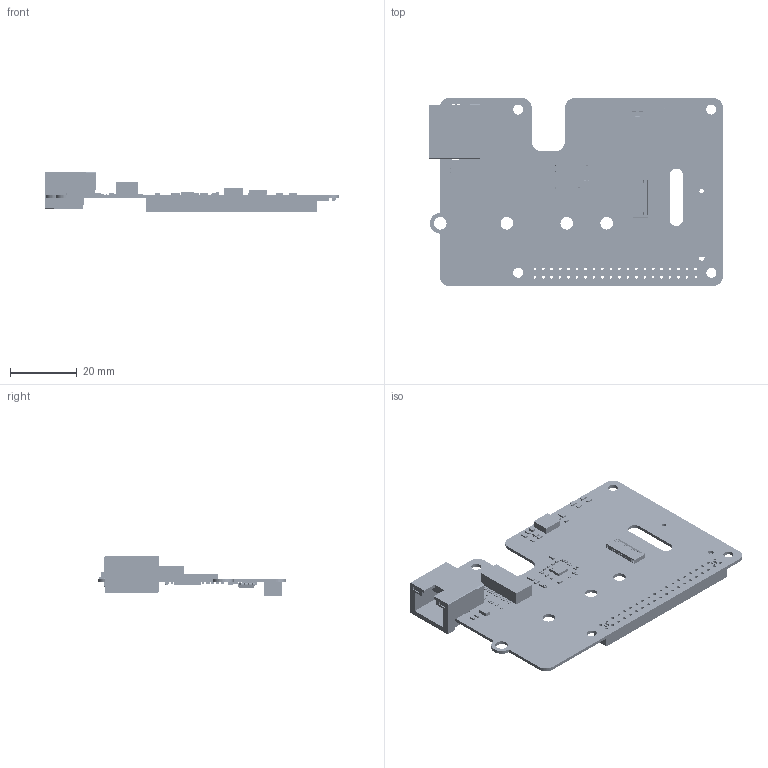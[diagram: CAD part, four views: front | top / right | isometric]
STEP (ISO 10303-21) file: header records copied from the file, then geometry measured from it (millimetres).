
FILE_DESCRIPTION(('Open CASCADE Model'),'2;1');
FILE_NAME('Open CASCADE Shape Model','2025-07-18T17:09:00',('Author'),( 'Open CASCADE'),'Open CASCADE STEP processor 6.5','Open CASCADE 6.5' ,'Unknown');
FILE_SCHEMA(('AUTOMOTIVE_DESIGN { 1 0 10303 214 1 1 1 1 }'));
Length unit declared in the file: millimetre
Products named in the file (211): PCB; Board; R36; R0603; R_0603-3615_AF0_ASM; R_0603-3601_AF0_ASM; _2_1_2_3_4_AF0; _7_1_2_AF0; 5_1_2_3_400; R10; R19; R18; R17; R2; R25; R23; C8; C_0805; C_0805-3038_AF1_ASM; C_0805-10418_AF1_ASM; 500; _1_1_2_30001; 4_A; C11; U4; User_Library-sop-8; R44; R0805; R_0805-7019_AF0_ASM; R_0805-6998_AF0_ASM; _2_1_2_3_4_5_6_AF0; _7_1_2_3_4_AF0; 5_1_2_3_4_5_600; R6; R12; R24; R21; LED1; -1801038832; Extruded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
Assembly tree (368 placements, depth 6):
  PCB
    Board
    R36
      R0603
        R_0603-3615_AF0_ASM
          R_0603-3601_AF0_ASM
            _2_1_2_3_4_AF0
            _7_1_2_AF0
            5_1_2_3_400
    R10
      R0603
        R_0603-3615_AF0_ASM
          R_0603-3601_AF0_ASM
            _2_1_2_3_4_AF0
            _7_1_2_AF0
            5_1_2_3_400
    R19
      R0603
        R_0603-3615_AF0_ASM
          R_0603-3601_AF0_ASM
            _2_1_2_3_4_AF0
            _7_1_2_AF0
            5_1_2_3_400
    R18
      R0603
        R_0603-3615_AF0_ASM
          R_0603-3601_AF0_ASM
            _2_1_2_3_4_AF0
            _7_1_2_AF0
            5_1_2_3_400
    R17
      R0603
        R_0603-3615_AF0_ASM
          R_0603-3601_AF0_ASM
            _2_1_2_3_4_AF0
            _7_1_2_AF0
            5_1_2_3_400
    R2
      R0603
        R_0603-3615_AF0_ASM
          R_0603-3601_AF0_ASM
            _2_1_2_3_4_AF0
            _7_1_2_AF0
            5_1_2_3_400
    R25
      R0603
        R_0603-3615_AF0_ASM
          R_0603-3601_AF0_ASM
            _2_1_2_3_4_AF0
            _7_1_2_AF0
            5_1_2_3_400
    R23
      R0603
        R_0603-3615_AF0_ASM
          R_0603-3601_AF0_ASM
            _2_1_2_3_4_AF0
            _7_1_2_AF0
            5_1_2_3_400
    C8
      C_0805
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Bounding box: 88.29 x 56.52 x 12.15 mm (x, y, z)
Volume: 7113.1 mm3; surface area: 15739.4 mm2
Topology: 433 solids, 433 shells, 46533 faces, 123708 edges, 81708 vertices
Faces by surface type: plane 34463, extrusion 10192, cylinder 1366, sphere 392, bspline 120
Full cylindrical faces by diameter (mm): 0.5 x1, 0.95 x40, 1.3 x1, 1.7 x2, 1.8 x1, 3.8 x4
Entity records: 487483 total; most frequent: CARTESIAN_POINT 145669, DIRECTION 51752, VECTOR 38812, LINE 38118, ORIENTED_EDGE 31554, PCURVE 31554, DEFINITIONAL_REPRESENTATION 31554, EDGE_CURVE 15777
